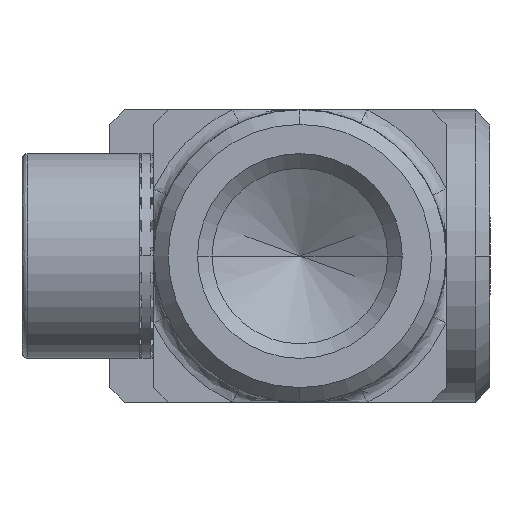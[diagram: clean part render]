
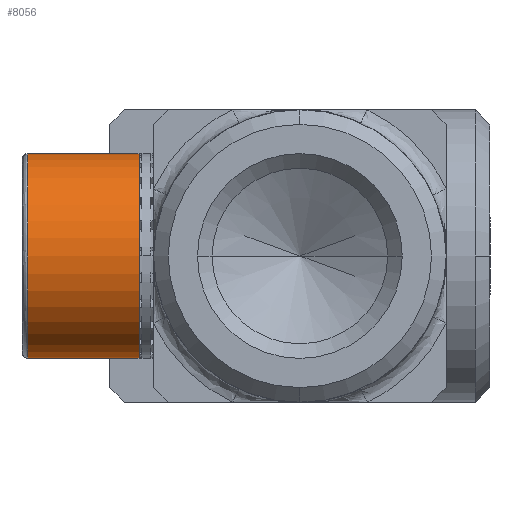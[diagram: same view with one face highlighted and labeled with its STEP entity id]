
A CAD part, left-side view. The second image highlights one B-rep face of the part: STEP entity #8056.
In plain terms, the highlighted cylindrical face has radius 3.5 mm (diameter 7 mm), a partial arc.
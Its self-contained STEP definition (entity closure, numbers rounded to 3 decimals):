
#1137 = DIRECTION ( 'NONE',  ( 0., 0., 1. ) ) ;
#1701 = DIRECTION ( 'NONE',  ( 0., 0., 1. ) ) ;
#2486 = DIRECTION ( 'NONE',  ( 0., 1., 0. ) ) ;
#2756 = DIRECTION ( 'NONE',  ( 0., 1., 0. ) ) ;
#2772 = CARTESIAN_POINT ( 'NONE',  ( 2.037, 47.791, 3.5 ) ) ;
#2877 = DIRECTION ( 'NONE',  ( 0., 1., 0. ) ) ;
#2888 = EDGE_CURVE ( 'NONE', #3845, #10944, #12284, .T. ) ;
#3698 = FACE_OUTER_BOUND ( 'NONE', #7437, .T. ) ;
#3845 = VERTEX_POINT ( 'NONE', #14144 ) ;
#4034 = EDGE_CURVE ( 'NONE', #9876, #3845, #4380, .T. ) ;
#4093 = VECTOR ( 'NONE', #11482, 1000. ) ;
#4380 = CIRCLE ( 'NONE', #7273, 3.5 ) ;
#4633 = CIRCLE ( 'NONE', #12400, 3.5 ) ;
#4737 = CARTESIAN_POINT ( 'NONE',  ( 2.037, 43.991, 3.5 ) ) ;
#6767 = ORIENTED_EDGE ( 'NONE', *, *, #8034, .T. ) ;
#7238 = ORIENTED_EDGE ( 'NONE', *, *, #2888, .F. ) ;
#7273 = AXIS2_PLACEMENT_3D ( 'NONE', #15850, #8513, #1137 ) ;
#7437 = EDGE_LOOP ( 'NONE', ( #7238, #10519, #6767, #12693 ) ) ;
#7608 = AXIS2_PLACEMENT_3D ( 'NONE', #9017, #2877, #1701 ) ;
#8034 = EDGE_CURVE ( 'NONE', #9876, #10862, #10640, .T. ) ;
#8056 = ADVANCED_FACE ( 'NONE', ( #3698 ), #11956, .T. ) ;
#8513 = DIRECTION ( 'NONE',  ( 0., -1., 0. ) ) ;
#8534 = EDGE_CURVE ( 'NONE', #10944, #10862, #4633, .T. ) ;
#9017 = CARTESIAN_POINT ( 'NONE',  ( 2.037, 43.991, 0. ) ) ;
#9020 = CARTESIAN_POINT ( 'NONE',  ( 2.037, 47.791, -3.5 ) ) ;
#9876 = VERTEX_POINT ( 'NONE', #4737 ) ;
#10157 = CARTESIAN_POINT ( 'NONE',  ( 2.037, 47.791, 0. ) ) ;
#10275 = CARTESIAN_POINT ( 'NONE',  ( 2.037, 43.991, 3.5 ) ) ;
#10519 = ORIENTED_EDGE ( 'NONE', *, *, #4034, .F. ) ;
#10640 = LINE ( 'NONE', #10275, #4093 ) ;
#10862 = VERTEX_POINT ( 'NONE', #2772 ) ;
#10944 = VERTEX_POINT ( 'NONE', #9020 ) ;
#11106 = CARTESIAN_POINT ( 'NONE',  ( 2.037, 43.991, -3.5 ) ) ;
#11351 = DIRECTION ( 'NONE',  ( -1., 0., 0. ) ) ;
#11482 = DIRECTION ( 'NONE',  ( 0., 1., 0. ) ) ;
#11956 = CYLINDRICAL_SURFACE ( 'NONE', #7608, 3.5 ) ;
#12284 = LINE ( 'NONE', #11106, #15565 ) ;
#12400 = AXIS2_PLACEMENT_3D ( 'NONE', #10157, #2756, #11351 ) ;
#12693 = ORIENTED_EDGE ( 'NONE', *, *, #8534, .F. ) ;
#14144 = CARTESIAN_POINT ( 'NONE',  ( 2.037, 43.991, -3.5 ) ) ;
#15565 = VECTOR ( 'NONE', #2486, 1000. ) ;
#15850 = CARTESIAN_POINT ( 'NONE',  ( 2.037, 43.991, 0. ) ) ;
